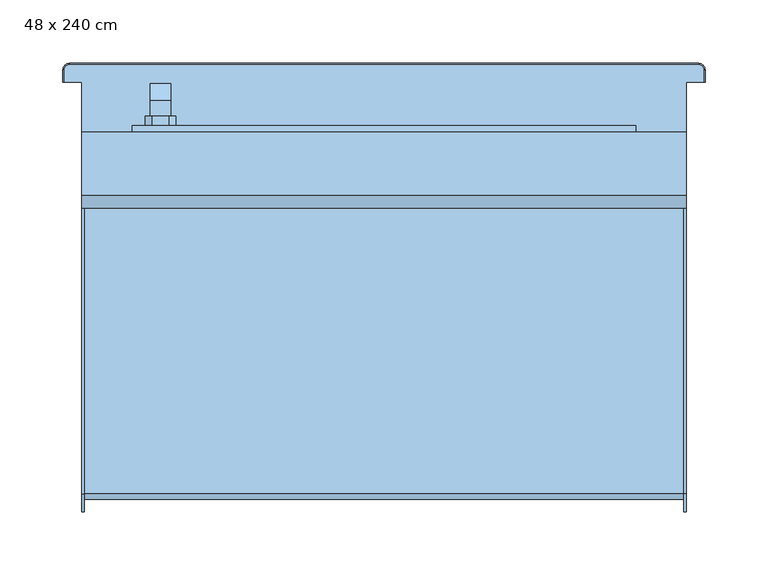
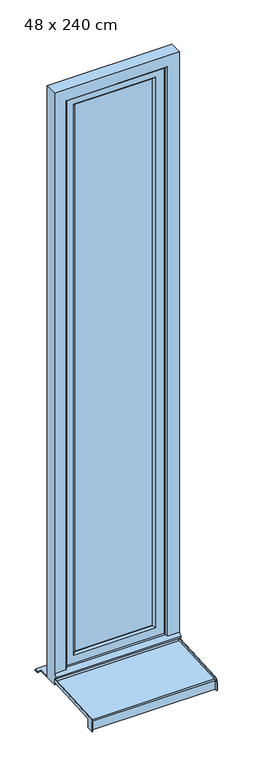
"""IFC4 building model written with IfcOpenShell, lengths in millimetres: window geometry, Fenêtre type 1 : 48 x 240 cm."""

from ifc_helpers import new_model, si_unit, frame, origin, place, context, project, spatial, polyline, circle_curve, outline, extrude, faceted_brep, source, transform, mapped, element, save
from ifc_brep_helpers import plane_surface, cylinder_surface, revolved_surface, advanced_brep


def window_48_x_240_cm_3727ab81(model_context):
    return source(origin(), model_context, "Body", "SolidModel", [
        faceted_brep([(-185.5, 123.0, 1306.0), (-185.5, 123.0, 1294.0), (-169.5, 123.0, 1294.0), (-169.5, 123.0, 1306.0), (-169.5, 135.4852814, 1306.0), (-185.5, 135.4852814, 1306.0), (-169.5, 130.5147186, 1294.0), (-169.5, 137.0, 1287.5147186), (-169.5, 137.0, 1287.2282668), (-169.5, 139.7580139, 1208.5355339), (-169.5, 149.0, 1208.5355339), (-169.5, 149.0, 1292.4852814), (-185.5, 130.5147186, 1294.0), (-185.5, 149.0, 1292.4852814), (-185.5, 149.0, 1208.5355339), (-185.5, 139.7580139, 1208.5355339), (-185.5, 137.0099909, 1287.2286157), (-185.5, 137.0, 1287.5147186), (-173.0355339, 149.0, 1205.0), (-173.0355339, 139.8814775, 1205.0), (-181.9644661, 139.8814775, 1205.0), (-181.9644661, 149.0, 1205.0)], [[[0, 1, 2, 3]], [[3, 4, 5, 0]], [[2, 6, 7, 8, 9, 10, 11, 4, 3]], [[1, 12, 6, 2]], [[0, 5, 13, 14, 15, 16, 17, 12, 1]], [[4, 11, 13, 5]], [[6, 12, 17, 7]], [[18, 19, 20, 21]], [[11, 10, 18, 21, 14, 13]], [[17, 16, 8, 7]], [[16, 15, 20, 19, 9, 8]], [[9, 19, 18, 10]], [[14, 21, 20, 15]]]),
        extrude(outline(polyline([(1330.0, -184.5), (1325.0, -189.5), (1275.0, -189.5), (1270.0, -184.5), (1270.0, -170.5), (1275.0, -165.5), (1325.0, -165.5), (1330.0, -170.5), (1330.0, -184.5)])), frame((0.0, 115.0, 0.0), z_axis=(0.0, 1.0, 0.0), x_axis=(0.0, 0.0, 1.0)), (0.0, 0.0, 1.0), 8.0),
        advanced_brep(
        [(-240.0, -165.0, 762.0), (-240.0, -191.5, 762.0), (-240.0, -191.5, 795.1063906), (-240.0, -177.2850393, 810.0858337), (-240.0, 60.0, 822.5214156), (-240.0, 60.0, 811.0056336), (-240.0, -165.0, 799.2138833), (240.0, -165.0, 799.2138833), (240.0, 60.0, 811.0056336), (240.0, 60.0, 822.5214156), (240.0, -177.2850393, 810.0858337), (240.0, -191.5, 795.1063906), (240.0, -191.5, 762.0), (240.0, -165.0, 762.0), (-238.0, 60.0, 822.5214156), (-238.0, 60.0, 812.5076922), (238.0, 60.0, 812.5076922), (238.0, 60.0, 822.5214156), (-238.0, -176.7616798, 800.0995383), (238.0, -176.7616798, 800.0995383), (238.0, -181.5, 795.1063906), (-238.0, -181.5, 795.1063906), (-238.0, -181.5, 762.0), (238.0, -181.5, 762.0), (-238.0, -180.0, 762.0), (238.0, -180.0, 762.0), (238.0, -165.0, 762.0), (238.0, -191.5, 762.0), (-238.0, -191.5, 762.0), (-238.0, -165.0, 762.0), (-238.0, -170.0, 772.0), (238.0, -170.0, 772.0), (-238.0, -171.0606602, 773.0606602), (238.0, -171.0606602, 773.0606602), (-238.0, -180.0, 764.1213203), (238.0, -180.0, 764.1213203), (-238.0, -180.0, 795.0728058), (238.0, -180.0, 795.0728058), (-238.0, -165.0, 799.2138833), (238.0, -165.0, 799.2138833), (238.0, -176.649637, 798.6033517), (-238.0, -176.649637, 798.6033517), (238.0, -191.5, 795.1063906), (238.0, -177.2850393, 810.0858337), (-238.0, -177.2850393, 810.0858337), (-238.0, -191.5, 795.1063906)],
        [
            (0, 1),
            (1, 2),
            (2, 3, circle_curve(frame((-240.0, -176.5, 795.1063906), z_axis=(-1.0, 0.0, 0.0), x_axis=(0.0, -0.05233595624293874, 0.9986295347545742)), 15.0)),
            (3, 4),
            (4, 5),
            (5, 6),
            (6, 0),
            (7, 8),
            (8, 9),
            (9, 10),
            (10, 11, circle_curve(frame((240.0, -176.5, 795.1063906), z_axis=(1.0, 0.0, 0.0), x_axis=(0.0, -1.0, 0.0)), 15.0)),
            (11, 12),
            (12, 13),
            (13, 7),
            (14, 15),
            (15, 16),
            (16, 17),
            (17, 9),
            (8, 5),
            (4, 14),
            (18, 19),
            (19, 16),
            (15, 18),
            (20, 21),
            (21, 22),
            (22, 23),
            (23, 20),
            (24, 25),
            (25, 26),
            (26, 13),
            (12, 27),
            (27, 23),
            (22, 28),
            (28, 1),
            (0, 29),
            (29, 24),
            (30, 31),
            (31, 25),
            (24, 30),
            (32, 33),
            (33, 31),
            (30, 32),
            (34, 35),
            (35, 33),
            (32, 34),
            (36, 37),
            (37, 35),
            (34, 36),
            (38, 6),
            (7, 39),
            (39, 40),
            (40, 41),
            (41, 38),
            (41, 36, circle_curve(frame((-238.0, -176.4646089, 795.0728058), z_axis=(1.0, 0.0, 0.0), x_axis=(0.0, 1.0, 0.0)), 3.5353911)),
            (29, 38),
            (37, 40, circle_curve(frame((238.0, -176.4646089, 795.0728058), z_axis=(-1.0, 0.0, 0.0), x_axis=(0.0, 1.0, 0.0)), 3.5353911)),
            (39, 26),
            (18, 21, circle_curve(frame((-238.0, -176.5, 795.1063906), z_axis=(1.0, 0.0, 0.0), x_axis=(0.0, 1.0, 0.0)), 5.0)),
            (20, 19, circle_curve(frame((238.0, -176.5, 795.1063906), z_axis=(-1.0, 0.0, 0.0), x_axis=(0.0, 1.0, 0.0)), 5.0)),
            (27, 42),
            (42, 43, circle_curve(frame((238.0, -176.5, 795.1063906), z_axis=(-1.0, 0.0, 0.0), x_axis=(0.0, -1.0, 0.0)), 15.0)),
            (43, 17),
            (11, 42),
            (10, 43),
            (14, 44),
            (44, 45, circle_curve(frame((-238.0, -176.5, 795.1063906), z_axis=(1.0, 0.0, 0.0), x_axis=(0.0, -0.05233595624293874, 0.9986295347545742)), 15.0)),
            (45, 28),
            (3, 44),
            (2, 45),
        ],
        [
            plane_surface(frame((-240.0, 60.0, 811.0056336), z_axis=(-1.0, 0.0, 0.0), x_axis=(0.0, 0.0, 1.0))),
            plane_surface(frame((240.0, 60.0, 811.0056336), z_axis=(1.0, 0.0, 0.0), x_axis=(0.0, 0.0, -1.0))),
            plane_surface(frame((-240.0, 60.0, 811.0056336), z_axis=(0.0, 1.0, 0.0), x_axis=(1.0, 0.0, 0.0))),
            plane_surface(frame((-240.0, 60.0, 812.5076922), z_axis=(0.0, -0.05233595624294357, 0.9986295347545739), x_axis=(1.0, 0.0, 0.0))),
            plane_surface(frame((-240.0, -181.5, 795.1063906), z_axis=(0.0, -1.0, 0.0), x_axis=(1.0, 0.0, 0.0))),
            plane_surface(frame((-240.0, -181.5, 762.0), z_axis=(0.0, 0.0, -1.0), x_axis=(1.0, 0.0, 0.0))),
            plane_surface(frame((-240.0, -180.0, 762.0), z_axis=(0.0, 0.7071067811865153, -0.7071067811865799), x_axis=(1.0, 0.0, 0.0))),
            plane_surface(frame((-240.0, -170.0, 772.0), z_axis=(0.0, 0.7071067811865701, 0.707106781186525), x_axis=(1.0, 0.0, 0.0))),
            plane_surface(frame((-240.0, -171.0606602, 773.0606602), z_axis=(0.0, -0.7071067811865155, 0.7071067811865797), x_axis=(1.0, 0.0, 0.0))),
            plane_surface(frame((-240.0, -180.0, 764.1213203), z_axis=(0.0, 1.0, 0.0), x_axis=(1.0, 0.0, 0.0))),
            plane_surface(frame((-240.0, -176.649637, 798.6033517), z_axis=(0.0, 0.052335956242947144, -0.9986295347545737), x_axis=(1.0, 0.0, 0.0))),
            plane_surface(frame((-238.0, -180.0, 798.4277666), z_axis=(1.0, 0.0, 0.0), x_axis=(0.0, 0.9986295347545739, 0.052335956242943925))),
            plane_surface(frame((-240.0, -165.0, 762.0), z_axis=(0.0, 1.0, 0.0), x_axis=(1.0, 0.0, 0.0))),
            plane_surface(frame((238.0, -180.0, 798.4277666), z_axis=(-1.0, 0.0, 0.0), x_axis=(0.0, 0.0, -1.0))),
            plane_surface(frame((238.0, -165.0, 762.0), z_axis=(0.0, 1.0, 0.0), x_axis=(1.0, 0.0, 0.0))),
            cylinder_surface(frame((240.0, -176.5, 795.1063906), z_axis=(-1.0, 0.0, 0.0), x_axis=(0.0, 1.0, 0.0)), 5.0),
            revolved_surface(polyline([(238.0, -172.9292178, 795.0728058), (-238.0, -172.9292178, 795.0728058)]), (240.0, -176.4646089, 795.0728058), (1.0, 0.0, 0.0)),
            plane_surface(frame((238.0, -181.5, 762.0), z_axis=(-1.0, 0.0, 0.0), x_axis=(0.0, 0.0, 1.0))),
            plane_surface(frame((238.0, -191.5, 762.0), z_axis=(0.0, -1.0, 0.0), x_axis=(0.0, 0.0, 1.0))),
            cylinder_surface(frame((240.0, -176.5, 795.1063906), z_axis=(1.0, 0.0, 0.0), x_axis=(0.0, -1.0, 0.0)), 15.0),
            plane_surface(frame((238.0, -177.2850393, 810.0858337), z_axis=(0.0, -0.05233595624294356, 0.9986295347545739), x_axis=(0.0, 0.9986295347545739, 0.05233595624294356))),
            plane_surface(frame((-238.0, 60.0, 822.5214156), z_axis=(1.0, 0.0, 0.0), x_axis=(0.0, 0.9986295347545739, 0.05233595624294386))),
            plane_surface(frame((-240.0, 60.0, 822.5214156), z_axis=(0.0, -0.05233595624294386, 0.9986295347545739), x_axis=(1.0, 0.0, 0.0))),
            cylinder_surface(frame((-240.0, -176.5, 795.1063906), z_axis=(-1.0, 0.0, 0.0), x_axis=(0.0, -0.05233595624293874, 0.9986295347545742)), 15.0),
            plane_surface(frame((-238.0, -191.5, 795.1063906), z_axis=(0.0, -1.0, 0.0), x_axis=(0.0, 0.0, -1.0))),
        ],
        [
            (0, [[1, 2, 3, 4, 5, 6, 7]]),
            (1, [[8, 9, 10, 11, 12, 13, 14]]),
            (2, [[15, 16, 17, 18, -9, 19, -5, 20]]),
            (3, [[21, 22, -16, 23]]),
            (4, [[24, 25, 26, 27]]),
            (5, [[28, 29, 30, -13, 31, 32, -26, 33, 34, -1, 35, 36]]),
            (6, [[37, 38, -28, 39]]),
            (7, [[40, 41, -37, 42]]),
            (8, [[43, 44, -40, 45]]),
            (9, [[46, 47, -43, 48]]),
            (10, [[49, -6, -19, -8, 50, 51, 52, 53]]),
            (11, [[-53, 54, -48, -45, -42, -39, -36, 55]]),
            (12, [[-35, -7, -49, -55]]),
            (13, [[-38, -41, -44, -47, 56, -51, 57, -29]]),
            (14, [[-50, -14, -30, -57]]),
            (15, [[-21, 58, -24, 59]]),
            (16, [[-52, -56, -46, -54]]),
            (17, [[60, 61, 62, -17, -22, -59, -27, -32]]),
            (18, [[-12, 63, -60, -31]]),
            (19, [[64, -61, -63, -11]]),
            (20, [[-10, -18, -62, -64]]),
            (21, [[65, 66, 67, -33, -25, -58, -23, -15]]),
            (22, [[68, -65, -20, -4]]),
            (23, [[69, -66, -68, -3]]),
            (24, [[-34, -67, -69, -2]]),
        ],
    ),
        extrude(outline(polyline([(-150.0, 105.0), (150.0, 105.0), (150.0, 85.0), (-150.0, 85.0), (-150.0, 105.0)])), frame((0.0, 0.0, 890.0), z_axis=(0.0, 0.0, 1.0), x_axis=(1.0, 0.0, 0.0)), (0.0, 0.0, 1.0), 2220.0),
        faceted_brep([(-200.0, 115.0, 840.0), (200.0, 115.0, 840.0), (200.0, 75.0, 840.0), (-200.0, 75.0, 840.0), (200.0, 115.0, 3160.0), (200.0, 75.0, 3160.0), (-200.0, 75.0, 3160.0), (157.0710678, 75.0, 3117.0710678), (157.0710678, 75.0, 882.9289322), (-157.0710678, 75.0, 882.9289322), (-157.0710678, 75.0, 3117.0710678), (-200.0, 115.0, 3160.0), (157.0710678, 115.0, 882.9289322), (157.0710678, 115.0, 3117.0710678), (-157.0710678, 115.0, 3117.0710678), (-157.0710678, 115.0, 882.9289322), (-150.0, 107.9289322, 890.0), (150.0, 107.9289322, 890.0), (150.0, 107.9289322, 3110.0), (150.0, 82.0710678, 890.0), (150.0, 82.0710678, 3110.0), (-150.0, 82.0710678, 890.0), (-150.0, 107.9289322, 3110.0), (-150.0, 82.0710678, 3110.0)], [[[0, 1, 2, 3]], [[1, 4, 5, 2]], [[2, 5, 6, 3], [7, 8, 9, 10]], [[4, 1, 0, 11], [12, 13, 14, 15]], [[16, 17, 12, 15]], [[17, 18, 13, 12]], [[19, 20, 18, 17]], [[9, 8, 19, 21]], [[8, 7, 20, 19]], [[11, 0, 3, 6]], [[22, 16, 15, 14]], [[23, 21, 16, 22]], [[10, 9, 21, 23]], [[21, 19, 17, 16]], [[4, 11, 6, 5]], [[18, 22, 14, 13]], [[7, 10, 23, 20]], [[20, 23, 22, 18]]]),
        faceted_brep([(240.0, 60.0, 800.0), (240.0, 110.0, 800.0), (240.0, 110.0, 3200.0), (240.0, 60.0, 3200.0), (240.0, 60.0, 845.0), (240.0, 50.0, 835.0), (240.0, 50.0, 830.0), (240.0, 60.0, 830.0), (-240.0, 60.0, 830.0), (-240.0, 60.0, 800.0), (-240.0, 50.0, 830.0), (-240.0, 50.0, 835.0), (195.0, 60.0, 845.0), (190.0, 65.0, 850.0), (-190.0, 65.0, 850.0), (-195.0, 60.0, 845.0), (-240.0, 60.0, 845.0), (-240.0, 60.0, 3200.0), (-195.0, 60.0, 3155.0), (195.0, 60.0, 3155.0), (-240.0, 110.0, 800.0), (-240.0, 110.0, 3200.0), (200.0, 110.0, 840.0), (200.0, 110.0, 3160.0), (-200.0, 110.0, 3160.0), (-200.0, 110.0, 840.0), (-200.0, 75.0, 840.0), (200.0, 75.0, 840.0), (-200.0, 75.0, 3160.0), (200.0, 75.0, 3160.0), (190.0, 75.0, 850.0), (190.0, 75.0, 3150.0), (-190.0, 75.0, 3150.0), (-190.0, 75.0, 850.0), (-190.0, 65.0, 3150.0), (190.0, 65.0, 3150.0)], [[[0, 1, 2, 3, 4, 5, 6, 7]], [[7, 8, 9, 0]], [[6, 10, 8, 7]], [[5, 11, 10, 6]], [[5, 4, 12, 13, 14, 15, 16, 11]], [[17, 16, 15, 18, 19, 12, 4, 3]], [[1, 20, 21, 2], [22, 23, 24, 25]], [[0, 9, 20, 1]], [[9, 8, 10, 11, 16, 17, 21, 20]], [[25, 26, 27, 22]], [[26, 25, 24, 28]], [[22, 27, 29, 23]], [[29, 27, 26, 28], [30, 31, 32, 33]], [[33, 14, 13, 30]], [[34, 14, 33, 32]], [[31, 30, 13, 35]], [[35, 13, 12, 19]], [[18, 15, 14, 34]], [[3, 2, 21, 17]], [[28, 24, 23, 29]], [[31, 35, 34, 32]], [[18, 34, 35, 19]]]),
        advanced_brep(
        [(240.0, 150.0, 805.0), (253.9971508, 150.0, 805.0), (253.9971508, 160.0, 805.0), (250.0, 163.9971508, 805.0), (-250.0, 163.9971508, 805.0), (-253.9971508, 160.0, 805.0), (-253.9971508, 150.0, 805.0), (-240.0, 150.0, 805.0), (-240.0, 110.0, 805.0), (240.0, 110.0, 805.0), (-240.0, 150.0, 800.0), (-253.9971508, 150.0, 800.0), (-253.9971508, 160.0, 800.0), (-250.0, 163.9971508, 800.0), (250.0, 163.9971508, 800.0), (253.9971508, 160.0, 800.0), (253.9971508, 150.0, 800.0), (240.0, 150.0, 800.0), (240.0, 110.0, 800.0), (-240.0, 110.0, 800.0), (-255.0, 160.0, 801.0028492), (-255.0, 150.0, 801.0028492), (-255.0, 150.0, 803.9971508), (-255.0, 160.0, 803.9971508), (255.0, 150.0, 801.0028492), (255.0, 150.0, 803.9971508), (255.0, 160.0, 801.0028492), (255.0, 160.0, 803.9971508), (250.0, 165.0, 801.0028492), (-250.0, 165.0, 801.0028492), (-250.0, 165.0, 803.9971508), (250.0, 165.0, 803.9971508)],
        [
            (0, 1),
            (1, 2),
            (2, 3, circle_curve(frame((250.0, 160.0, 805.0), z_axis=(0.0, 0.0, 1.0), x_axis=(0.0, 1.0, 0.0)), 3.9971508)),
            (3, 4),
            (4, 5, circle_curve(frame((-250.0, 160.0, 805.0), z_axis=(0.0, 0.0, 1.0), x_axis=(-1.0, 0.0, 0.0)), 3.9971508)),
            (5, 6),
            (6, 7),
            (7, 8),
            (8, 9),
            (9, 0),
            (10, 11),
            (11, 12),
            (12, 13, circle_curve(frame((-250.0, 160.0, 800.0), z_axis=(0.0, 0.0, -1.0), x_axis=(-1.0, 0.0, 0.0)), 3.9971508)),
            (13, 14),
            (14, 15, circle_curve(frame((250.0, 160.0, 800.0), z_axis=(0.0, 0.0, -1.0), x_axis=(0.0, 1.0, 0.0)), 3.9971508)),
            (15, 16),
            (16, 17),
            (17, 18),
            (18, 19),
            (19, 10),
            (20, 21),
            (21, 22),
            (22, 23),
            (23, 20),
            (6, 22),
            (21, 11),
            (10, 7),
            (19, 8),
            (18, 9),
            (17, 0),
            (16, 24),
            (24, 25),
            (25, 1),
            (24, 26),
            (26, 27),
            (27, 25),
            (28, 29),
            (29, 30),
            (30, 31),
            (31, 28),
            (31, 27, circle_curve(frame((250.0, 160.0, 803.9971508), z_axis=(0.0, 0.0, -1.0), x_axis=(0.0, 1.0, 0.0)), 5.0)),
            (26, 28, circle_curve(frame((250.0, 160.0, 801.0028492), z_axis=(0.0, 0.0, 1.0), x_axis=(0.0, 1.0, 0.0)), 5.0)),
            (23, 30, circle_curve(frame((-250.0, 160.0, 803.9971508), z_axis=(0.0, 0.0, -1.0), x_axis=(0.0, 1.0, 0.0)), 5.0)),
            (29, 20, circle_curve(frame((-250.0, 160.0, 801.0028492), z_axis=(0.0, 0.0, 1.0), x_axis=(0.0, 1.0, 0.0)), 5.0)),
            (5, 23),
            (20, 12),
            (4, 30),
            (29, 13),
            (3, 31),
            (28, 14),
            (2, 27),
            (26, 15),
        ],
        [
            plane_surface(frame((-255.0, 150.0, 805.0), z_axis=(0.0, 0.0, 1.0), x_axis=(0.0, 1.0, 0.0))),
            plane_surface(frame((-255.0, 150.0, 800.0), z_axis=(0.0, 0.0, -1.0), x_axis=(0.0, -1.0, 0.0))),
            plane_surface(frame((-255.0, 160.0, 800.0), z_axis=(-1.0, 0.0, 0.0), x_axis=(0.0, 0.0, 1.0))),
            plane_surface(frame((-255.0, 150.0, 800.0), z_axis=(0.0, -1.0, 0.0), x_axis=(0.0, 0.0, 1.0))),
            plane_surface(frame((-240.0, 150.0, 800.0), z_axis=(-1.0, 0.0, 0.0), x_axis=(0.0, 0.0, 1.0))),
            plane_surface(frame((-240.0, 110.0, 800.0), z_axis=(0.0, -1.0, 0.0), x_axis=(0.0, 0.0, 1.0))),
            plane_surface(frame((240.0, 110.0, 800.0), z_axis=(1.0, 0.0, 0.0), x_axis=(0.0, 0.0, 1.0))),
            plane_surface(frame((240.0, 150.0, 800.0), z_axis=(0.0, -1.0, 0.0), x_axis=(0.0, 0.0, 1.0))),
            plane_surface(frame((255.0, 150.0, 800.0), z_axis=(1.0, 0.0, 0.0), x_axis=(0.0, 0.0, 1.0))),
            plane_surface(frame((250.0, 165.0, 800.0), z_axis=(0.0, 1.0, 0.0), x_axis=(0.0, 0.0, 1.0))),
            cylinder_surface(frame((250.0, 160.0, 805.0), z_axis=(0.0, 0.0, -1.0), x_axis=(0.0, 1.0, 0.0)), 5.0),
            cylinder_surface(frame((-250.0, 160.0, 805.0), z_axis=(0.0, 0.0, -1.0), x_axis=(0.0, 1.0, 0.0)), 5.0),
            plane_surface(frame((-253.9971508, 150.0, 805.0), z_axis=(-0.7071067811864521, 0.0, 0.707106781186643), x_axis=(0.0, 1.0, 0.0))),
            plane_surface(frame((-255.0, 150.0, 801.0028492), z_axis=(-0.7071067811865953, 0.0, -0.7071067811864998), x_axis=(0.0, 1.0, 0.0))),
            revolved_surface(polyline([(-255.0, 160.0, 803.9971508), (-253.9971508, 160.0, 805.0)]), (-250.0, 160.0, 805.0), (0.0, 0.0, 1.0)),
            revolved_surface(polyline([(-253.9971508, 160.0, 800.0), (-255.0, 160.0, 801.0028492)]), (-250.0, 160.0, 805.0), (0.0, 0.0, 1.0)),
            plane_surface(frame((-250.0, 163.9971508, 805.0), z_axis=(0.0, 0.7071067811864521, 0.707106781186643), x_axis=(1.0, 0.0, 0.0))),
            plane_surface(frame((-250.0, 165.0, 801.0028492), z_axis=(0.0, 0.7071067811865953, -0.7071067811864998), x_axis=(1.0, 0.0, 0.0))),
            revolved_surface(polyline([(250.0, 165.0, 803.9971508), (250.0, 163.9971508, 805.0)]), (250.0, 160.0, 805.0), (0.0, 0.0, 1.0)),
            revolved_surface(polyline([(250.0, 163.9971508, 800.0), (250.0, 165.0, 801.0028492)]), (250.0, 160.0, 805.0), (0.0, 0.0, 1.0)),
            plane_surface(frame((253.9971508, 160.0, 805.0), z_axis=(0.7071067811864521, 0.0, 0.707106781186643), x_axis=(0.0, -1.0, 0.0))),
            plane_surface(frame((255.0, 160.0, 801.0028492), z_axis=(0.7071067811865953, 0.0, -0.7071067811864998), x_axis=(0.0, -1.0, 0.0))),
        ],
        [
            (0, [[1, 2, 3, 4, 5, 6, 7, 8, 9, 10]]),
            (1, [[11, 12, 13, 14, 15, 16, 17, 18, 19, 20]]),
            (2, [[21, 22, 23, 24]]),
            (3, [[-7, 25, -22, 26, -11, 27]]),
            (4, [[-27, -20, 28, -8]]),
            (5, [[-28, -19, 29, -9]]),
            (6, [[-29, -18, 30, -10]]),
            (7, [[-17, 31, 32, 33, -1, -30]]),
            (8, [[34, 35, 36, -32]]),
            (9, [[37, 38, 39, 40]]),
            (10, [[41, -35, 42, -40]]),
            (11, [[43, -38, 44, -24]]),
            (12, [[-23, -25, -6, 45]]),
            (13, [[-12, -26, -21, 46]]),
            (14, [[-5, 47, -43, -45]]),
            (15, [[-44, 48, -13, -46]]),
            (16, [[-4, 49, -39, -47]]),
            (17, [[-37, 50, -14, -48]]),
            (18, [[-3, 51, -41, -49]]),
            (19, [[-42, 52, -15, -50]]),
            (20, [[-2, -33, -36, -51]]),
            (21, [[-34, -31, -16, -52]]),
        ],
    ),
    ])


if __name__ == "__main__":
    model = new_model("IFC4")
    model_context = context("Model", 3, world=origin())
    ifc_project = project(units=[si_unit("LENGTHUNIT", "METRE", prefix="MILLI")], contexts=[model_context])
    site = spatial("IfcSite", under=ifc_project)
    building = spatial("IfcBuilding", under=site)
    placement = place(None, origin())
    window_48_x_240_cm_shape = window_48_x_240_cm_3727ab81(model_context)
    element("IfcWindow", 1, ObjectType="Fenêtre type 1 : 48 x 240 cm", at=placement, inside=building, context=model_context, shape_type="MappedRepresentation", body=[
        mapped(window_48_x_240_cm_shape, transform((0.0, 0.0, 0.0), x_axis=(1.0, 0.0, 0.0), y_axis=(0.0, 1.0, 0.0), z_axis=(0.0, 0.0, 1.0))),
    ])
    save(model, "model.ifc")
